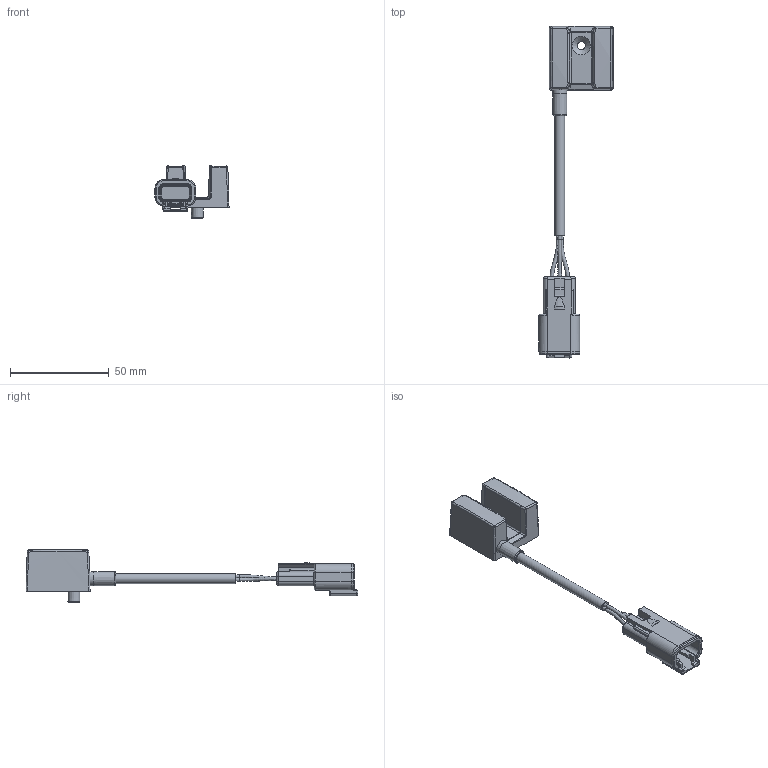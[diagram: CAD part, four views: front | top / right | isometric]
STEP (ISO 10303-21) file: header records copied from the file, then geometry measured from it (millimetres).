
FILE_DESCRIPTION(/* description */ ('Katalogmodell Elobau'),/* implementation_level */ '2;1');
FILE_NAME(/* name */ '147102B_C.stp',/* time_stamp */ '2015-11-16T16:16:34+01:00',/* author */ ('Elobau GmbH & Co. KG'),/* organization */ ('Elobau GmbH & Co. KG'),/* preprocessor_version */ 'ST-DEVELOPER v15',/* originating_system */ 'SIEMENS PLM Software NX 8.5',/* authorisation */ '');
FILE_SCHEMA (('AUTOMOTIVE_DESIGN { 1 0 10303 214 3 1 1 1 }'));
Length unit declared in the file: millimetre
Products named in the file (1): 147102B_C
Bounding box: 37.58 x 168.47 x 27.18 mm (x, y, z)
Volume: 16561.7 mm3; surface area: 13642.3 mm2
Topology: 4 solids, 5 shells, 537 faces, 1365 edges, 817 vertices
Faces by surface type: plane 213, cylinder 150, bspline 75, torus 49, cone 36, sphere 14
Full cylindrical faces by diameter (mm): 1.8 x3, 5 x1, 7.2 x1
Entity records: 17882 total; most frequent: CARTESIAN_POINT 5507, ORIENTED_EDGE 2612, DIRECTION 2544, EDGE_CURVE 1306, AXIS2_PLACEMENT_3D 941, VERTEX_POINT 797, LINE 662, VECTOR 662
